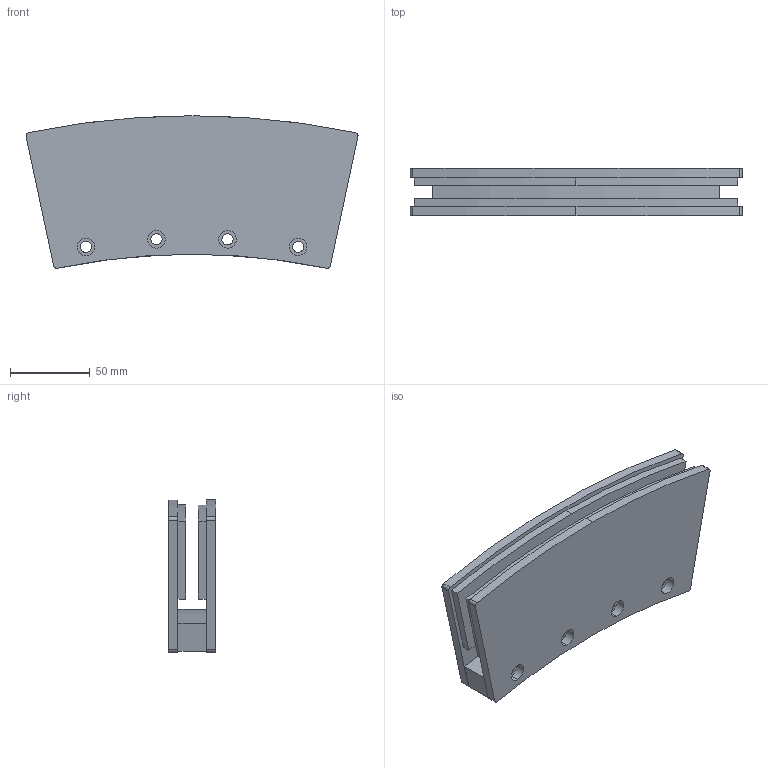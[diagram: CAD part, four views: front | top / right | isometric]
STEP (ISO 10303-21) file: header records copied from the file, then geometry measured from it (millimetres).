
FILE_DESCRIPTION (( 'STEP AP214' ), '1' );
FILE_NAME ('MBD-CM20KA_#1.00_0.STEP', '2021-02-26T04:24:52', ( '' ), ( '' ), 'SwSTEP 2.0', 'SolidWorks 2018', '' );
FILE_SCHEMA (( 'AUTOMOTIVE_DESIGN' ));
Length unit declared in the file: millimetre
Products named in the file (1): MBD-CM20KA_#1.00_0
Bounding box: 208.41 x 29.75 x 95.72 mm (x, y, z)
Volume: 342917.4 mm3; surface area: 82060.5 mm2
Topology: 1 solids, 1 shells, 102 faces, 252 edges, 168 vertices
Faces by surface type: cylinder 62, plane 40
Entity records: 3130 total; most frequent: DIRECTION 582, CARTESIAN_POINT 523, ORIENTED_EDGE 504, EDGE_CURVE 252, AXIS2_PLACEMENT_3D 227, VERTEX_POINT 168, VECTOR 128, LINE 128
